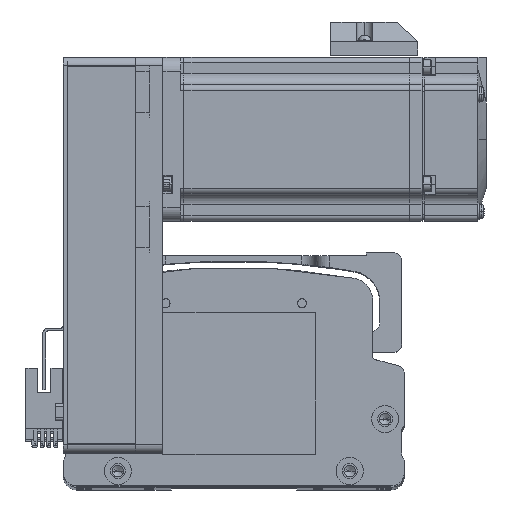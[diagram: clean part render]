
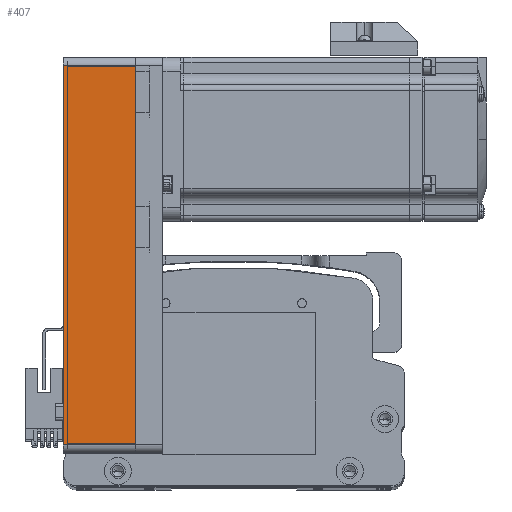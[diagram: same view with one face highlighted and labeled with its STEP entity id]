
A CAD part, top view. The second image highlights one B-rep face of the part: STEP entity #407.
In plain terms, the highlighted planar face has unit normal (0, 0, 1) as drawn and (0, -1, 0) by its records, which use the part's own axes.
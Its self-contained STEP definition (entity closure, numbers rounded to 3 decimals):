
#407 = ADVANCED_FACE ( 'NONE', ( #44616 ), #54469, .F. ) ;
#873 = EDGE_CURVE ( 'NONE', #6523, #29646, #30021, .T. ) ;
#6523 = VERTEX_POINT ( 'NONE', #68400 ) ;
#7134 = VERTEX_POINT ( 'NONE', #38633 ) ;
#11280 = CARTESIAN_POINT ( 'NONE',  ( 72.5, -30., 26.5 ) ) ;
#13500 = CARTESIAN_POINT ( 'NONE',  ( 69.5, -30., 26.5 ) ) ;
#15890 = VECTOR ( 'NONE', #26553, 1000. ) ;
#16427 = CARTESIAN_POINT ( 'NONE',  ( -69.5, -30., 26.5 ) ) ;
#17597 = DIRECTION ( 'NONE',  ( -1., 0., 0. ) ) ;
#18331 = LINE ( 'NONE', #40324, #66190 ) ;
#20291 = CARTESIAN_POINT ( 'NONE',  ( 69.5, -30., 26.5 ) ) ;
#21770 = ORIENTED_EDGE ( 'NONE', *, *, #873, .T. ) ;
#26553 = DIRECTION ( 'NONE',  ( 0., 0., 1. ) ) ;
#28652 = LINE ( 'NONE', #46831, #43236 ) ;
#28725 = EDGE_CURVE ( 'NONE', #29646, #7134, #18331, .T. ) ;
#29646 = VERTEX_POINT ( 'NONE', #62614 ) ;
#30021 = LINE ( 'NONE', #16427, #44626 ) ;
#32415 = AXIS2_PLACEMENT_3D ( 'NONE', #11280, #55010, #17597 ) ;
#36415 = LINE ( 'NONE', #20291, #15890 ) ;
#38633 = CARTESIAN_POINT ( 'NONE',  ( 69.5, -30., 0. ) ) ;
#38651 = EDGE_CURVE ( 'NONE', #6523, #40074, #28652, .T. ) ;
#40074 = VERTEX_POINT ( 'NONE', #13500 ) ;
#40324 = CARTESIAN_POINT ( 'NONE',  ( 72.5, -30., 0. ) ) ;
#43236 = VECTOR ( 'NONE', #78009, 1000. ) ;
#44616 = FACE_OUTER_BOUND ( 'NONE', #63063, .T. ) ;
#44626 = VECTOR ( 'NONE', #78991, 1000. ) ;
#46831 = CARTESIAN_POINT ( 'NONE',  ( 72.5, -30., 26.5 ) ) ;
#49684 = ORIENTED_EDGE ( 'NONE', *, *, #38651, .F. ) ;
#54469 = PLANE ( 'NONE',  #32415 ) ;
#55010 = DIRECTION ( 'NONE',  ( 0., 1., 0. ) ) ;
#58168 = ORIENTED_EDGE ( 'NONE', *, *, #28725, .T. ) ;
#62614 = CARTESIAN_POINT ( 'NONE',  ( -69.5, -30., 0. ) ) ;
#63063 = EDGE_LOOP ( 'NONE', ( #58168, #63501, #49684, #21770 ) ) ;
#63501 = ORIENTED_EDGE ( 'NONE', *, *, #72150, .T. ) ;
#66190 = VECTOR ( 'NONE', #71496, 1000. ) ;
#68400 = CARTESIAN_POINT ( 'NONE',  ( -69.5, -30., 26.5 ) ) ;
#71496 = DIRECTION ( 'NONE',  ( 1., 0., 0. ) ) ;
#72150 = EDGE_CURVE ( 'NONE', #7134, #40074, #36415, .T. ) ;
#78009 = DIRECTION ( 'NONE',  ( 1., 0., 0. ) ) ;
#78991 = DIRECTION ( 'NONE',  ( 0., 0., -1. ) ) ;
